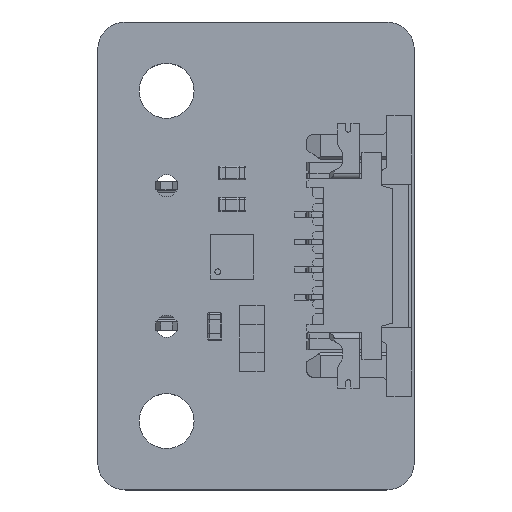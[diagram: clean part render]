
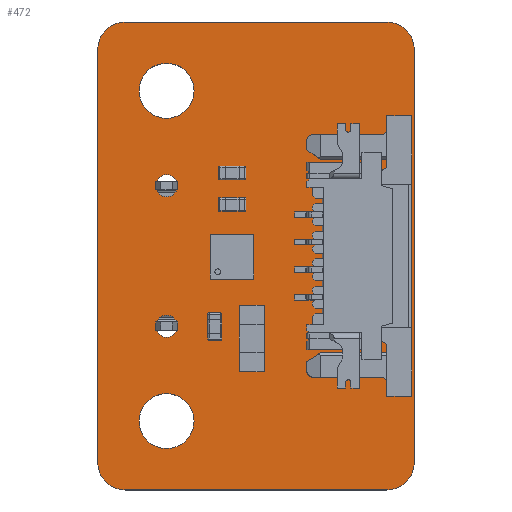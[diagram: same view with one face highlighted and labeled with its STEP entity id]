
A CAD part, top view. The second image highlights one B-rep face of the part: STEP entity #472.
In plain terms, the highlighted planar face has unit normal (0, 0, 1).
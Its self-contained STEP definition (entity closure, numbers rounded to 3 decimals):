
#63 = VERTEX_POINT('',#64);
#64 = CARTESIAN_POINT('',(0.,1.,0.));
#70 = EDGE_CURVE('',#63,#71,#73,.T.);
#71 = VERTEX_POINT('',#72);
#72 = CARTESIAN_POINT('',(1.,0.,0.));
#73 = CIRCLE('',#74,1.);
#74 = AXIS2_PLACEMENT_3D('',#75,#76,#77);
#75 = CARTESIAN_POINT('',(1.,1.,0.));
#76 = DIRECTION('',(0.,0.,1.));
#77 = DIRECTION('',(-1.,0.,0.));
#103 = EDGE_CURVE('',#71,#104,#106,.T.);
#104 = VERTEX_POINT('',#105);
#105 = CARTESIAN_POINT('',(10.5,0.,0.));
#106 = LINE('',#107,#108);
#107 = CARTESIAN_POINT('',(1.,0.,0.));
#108 = VECTOR('',#109,1.);
#109 = DIRECTION('',(1.,0.,0.));
#134 = EDGE_CURVE('',#104,#135,#137,.T.);
#135 = VERTEX_POINT('',#136);
#136 = CARTESIAN_POINT('',(11.5,1.,0.));
#137 = CIRCLE('',#138,1.);
#138 = AXIS2_PLACEMENT_3D('',#139,#140,#141);
#139 = CARTESIAN_POINT('',(10.5,1.,0.));
#140 = DIRECTION('',(0.,0.,1.));
#141 = DIRECTION('',(0.,-1.,0.));
#167 = EDGE_CURVE('',#135,#168,#170,.T.);
#168 = VERTEX_POINT('',#169);
#169 = CARTESIAN_POINT('',(11.5,16.,0.));
#170 = LINE('',#171,#172);
#171 = CARTESIAN_POINT('',(11.5,1.,0.));
#172 = VECTOR('',#173,1.);
#173 = DIRECTION('',(0.,1.,0.));
#198 = EDGE_CURVE('',#168,#199,#201,.T.);
#199 = VERTEX_POINT('',#200);
#200 = CARTESIAN_POINT('',(10.5,17.,0.));
#201 = CIRCLE('',#202,1.);
#202 = AXIS2_PLACEMENT_3D('',#203,#204,#205);
#203 = CARTESIAN_POINT('',(10.5,16.,0.));
#204 = DIRECTION('',(0.,0.,1.));
#205 = DIRECTION('',(1.,0.,0.));
#231 = EDGE_CURVE('',#199,#232,#234,.T.);
#232 = VERTEX_POINT('',#233);
#233 = CARTESIAN_POINT('',(1.,17.,0.));
#234 = LINE('',#235,#236);
#235 = CARTESIAN_POINT('',(10.5,17.,0.));
#236 = VECTOR('',#237,1.);
#237 = DIRECTION('',(-1.,0.,0.));
#262 = EDGE_CURVE('',#232,#263,#265,.T.);
#263 = VERTEX_POINT('',#264);
#264 = CARTESIAN_POINT('',(0.,16.,0.));
#265 = CIRCLE('',#266,1.);
#266 = AXIS2_PLACEMENT_3D('',#267,#268,#269);
#267 = CARTESIAN_POINT('',(1.,16.,0.));
#268 = DIRECTION('',(0.,0.,1.));
#269 = DIRECTION('',(0.,1.,0.));
#295 = EDGE_CURVE('',#263,#63,#296,.T.);
#296 = LINE('',#297,#298);
#297 = CARTESIAN_POINT('',(0.,16.,0.));
#298 = VECTOR('',#299,1.);
#299 = DIRECTION('',(0.,-1.,0.));
#319 = VERTEX_POINT('',#320);
#320 = CARTESIAN_POINT('',(3.5,2.5,0.));
#326 = EDGE_CURVE('',#319,#319,#327,.T.);
#327 = CIRCLE('',#328,1.);
#328 = AXIS2_PLACEMENT_3D('',#329,#330,#331);
#329 = CARTESIAN_POINT('',(2.5,2.5,0.));
#330 = DIRECTION('',(0.,0.,1.));
#331 = DIRECTION('',(1.,0.,0.));
#352 = VERTEX_POINT('',#353);
#353 = CARTESIAN_POINT('',(3.5,14.5,0.));
#359 = EDGE_CURVE('',#352,#352,#360,.T.);
#360 = CIRCLE('',#361,1.);
#361 = AXIS2_PLACEMENT_3D('',#362,#363,#364);
#362 = CARTESIAN_POINT('',(2.5,14.5,0.));
#363 = DIRECTION('',(0.,0.,1.));
#364 = DIRECTION('',(1.,0.,0.));
#385 = VERTEX_POINT('',#386);
#386 = CARTESIAN_POINT('',(2.9,5.95,0.));
#392 = EDGE_CURVE('',#385,#385,#393,.T.);
#393 = CIRCLE('',#394,0.4);
#394 = AXIS2_PLACEMENT_3D('',#395,#396,#397);
#395 = CARTESIAN_POINT('',(2.5,5.95,0.));
#396 = DIRECTION('',(0.,0.,1.));
#397 = DIRECTION('',(1.,0.,0.));
#418 = VERTEX_POINT('',#419);
#419 = CARTESIAN_POINT('',(2.9,11.05,0.));
#425 = EDGE_CURVE('',#418,#418,#426,.T.);
#426 = CIRCLE('',#427,0.4);
#427 = AXIS2_PLACEMENT_3D('',#428,#429,#430);
#428 = CARTESIAN_POINT('',(2.5,11.05,0.));
#429 = DIRECTION('',(0.,0.,1.));
#430 = DIRECTION('',(1.,0.,0.));
#472 = ADVANCED_FACE('',(#473,#483,#486,#489,#492),#495,.F.);
#473 = FACE_BOUND('',#474,.T.);
#474 = EDGE_LOOP('',(#475,#476,#477,#478,#479,#480,#481,#482));
#475 = ORIENTED_EDGE('',*,*,#70,.T.);
#476 = ORIENTED_EDGE('',*,*,#103,.T.);
#477 = ORIENTED_EDGE('',*,*,#134,.T.);
#478 = ORIENTED_EDGE('',*,*,#167,.T.);
#479 = ORIENTED_EDGE('',*,*,#198,.T.);
#480 = ORIENTED_EDGE('',*,*,#231,.T.);
#481 = ORIENTED_EDGE('',*,*,#262,.T.);
#482 = ORIENTED_EDGE('',*,*,#295,.T.);
#483 = FACE_BOUND('',#484,.F.);
#484 = EDGE_LOOP('',(#485));
#485 = ORIENTED_EDGE('',*,*,#326,.T.);
#486 = FACE_BOUND('',#487,.F.);
#487 = EDGE_LOOP('',(#488));
#488 = ORIENTED_EDGE('',*,*,#359,.T.);
#489 = FACE_BOUND('',#490,.F.);
#490 = EDGE_LOOP('',(#491));
#491 = ORIENTED_EDGE('',*,*,#392,.T.);
#492 = FACE_BOUND('',#493,.F.);
#493 = EDGE_LOOP('',(#494));
#494 = ORIENTED_EDGE('',*,*,#425,.T.);
#495 = PLANE('',#496);
#496 = AXIS2_PLACEMENT_3D('',#497,#498,#499);
#497 = CARTESIAN_POINT('',(0.,1.,0.));
#498 = DIRECTION('',(0.,0.,-1.));
#499 = DIRECTION('',(-1.,0.,0.));
